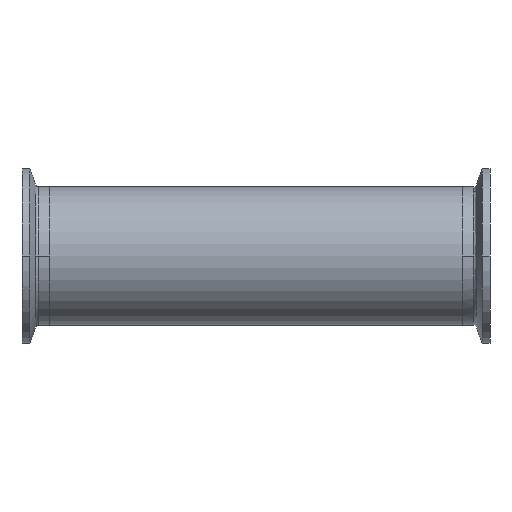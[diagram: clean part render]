
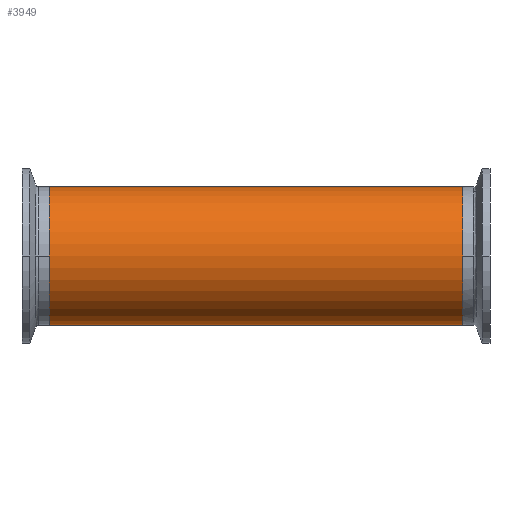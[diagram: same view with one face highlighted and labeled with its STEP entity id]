
A CAD part, front view. The second image highlights one B-rep face of the part: STEP entity #3949.
In plain terms, the highlighted cylindrical face has radius 25.4 mm (diameter 50.8 mm), a partial arc.
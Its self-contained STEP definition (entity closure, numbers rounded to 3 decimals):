
#166 = VERTEX_POINT ( 'NONE', #622 ) ;
#348 = CARTESIAN_POINT ( 'NONE',  ( 75.7, 0., -25.4 ) ) ;
#368 = VERTEX_POINT ( 'NONE', #2065 ) ;
#398 = AXIS2_PLACEMENT_3D ( 'NONE', #3701, #4064, #1502 ) ;
#519 = EDGE_CURVE ( 'NONE', #4052, #368, #3333, .T. ) ;
#603 = EDGE_CURVE ( 'NONE', #1990, #166, #2514, .T. ) ;
#622 = CARTESIAN_POINT ( 'NONE',  ( -75.7, 0., -25.4 ) ) ;
#720 = VECTOR ( 'NONE', #2795, 1000. ) ;
#935 = EDGE_CURVE ( 'NONE', #368, #166, #3830, .T. ) ;
#941 = ORIENTED_EDGE ( 'NONE', *, *, #603, .F. ) ;
#980 = CARTESIAN_POINT ( 'NONE',  ( 75.7, 0., 25.4 ) ) ;
#1067 = DIRECTION ( 'NONE',  ( 0., 0., 1. ) ) ;
#1321 = DIRECTION ( 'NONE',  ( -1., 0., 0. ) ) ;
#1336 = DIRECTION ( 'NONE',  ( 1., 0., 0. ) ) ;
#1361 = CARTESIAN_POINT ( 'NONE',  ( -75.7, 0., 0. ) ) ;
#1502 = DIRECTION ( 'NONE',  ( 0., 0., 1. ) ) ;
#1699 = VECTOR ( 'NONE', #2388, 1000. ) ;
#1990 = VERTEX_POINT ( 'NONE', #348 ) ;
#2005 = FACE_OUTER_BOUND ( 'NONE', #2128, .T. ) ;
#2065 = CARTESIAN_POINT ( 'NONE',  ( -75.7, 0., 25.4 ) ) ;
#2128 = EDGE_LOOP ( 'NONE', ( #941, #2509, #3228, #2225 ) ) ;
#2150 = AXIS2_PLACEMENT_3D ( 'NONE', #1361, #1336, #1067 ) ;
#2225 = ORIENTED_EDGE ( 'NONE', *, *, #935, .T. ) ;
#2342 = CIRCLE ( 'NONE', #2569, 25.4 ) ;
#2388 = DIRECTION ( 'NONE',  ( -1., 0., 0. ) ) ;
#2479 = CARTESIAN_POINT ( 'NONE',  ( 147.542, 0., 25.4 ) ) ;
#2509 = ORIENTED_EDGE ( 'NONE', *, *, #2783, .T. ) ;
#2514 = LINE ( 'NONE', #2584, #720 ) ;
#2569 = AXIS2_PLACEMENT_3D ( 'NONE', #3167, #1321, #3502 ) ;
#2584 = CARTESIAN_POINT ( 'NONE',  ( 147.542, 0., -25.4 ) ) ;
#2783 = EDGE_CURVE ( 'NONE', #1990, #4052, #2342, .T. ) ;
#2795 = DIRECTION ( 'NONE',  ( -1., 0., 0. ) ) ;
#2866 = CYLINDRICAL_SURFACE ( 'NONE', #398, 25.4 ) ;
#3167 = CARTESIAN_POINT ( 'NONE',  ( 75.7, 0., 0. ) ) ;
#3228 = ORIENTED_EDGE ( 'NONE', *, *, #519, .T. ) ;
#3333 = LINE ( 'NONE', #2479, #1699 ) ;
#3502 = DIRECTION ( 'NONE',  ( 0., 0., 1. ) ) ;
#3701 = CARTESIAN_POINT ( 'NONE',  ( 147.542, 0., 0. ) ) ;
#3830 = CIRCLE ( 'NONE', #2150, 25.4 ) ;
#3949 = ADVANCED_FACE ( 'NONE', ( #2005 ), #2866, .T. ) ;
#4052 = VERTEX_POINT ( 'NONE', #980 ) ;
#4064 = DIRECTION ( 'NONE',  ( -1., 0., 0. ) ) ;
